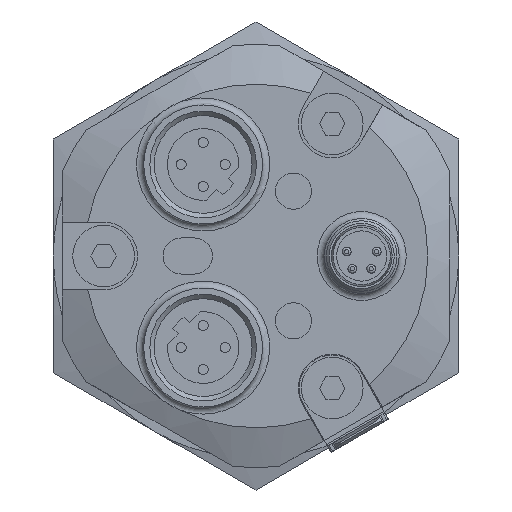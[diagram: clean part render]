
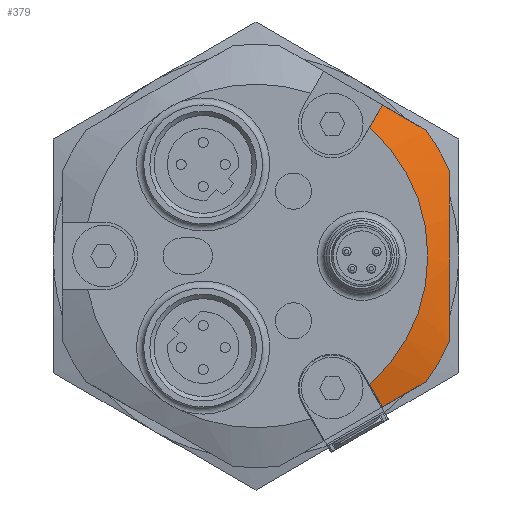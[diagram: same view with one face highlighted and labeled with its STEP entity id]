
A CAD part, left-side view. The second image highlights one B-rep face of the part: STEP entity #379.
In plain terms, the highlighted conical face has half-angle 70 degrees and reference radius 19.5 mm.
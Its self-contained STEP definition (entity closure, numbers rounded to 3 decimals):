
#379 = ADVANCED_FACE( '', ( #898 ), #899, .T. );
#898 = FACE_OUTER_BOUND( '', #1450, .T. );
#899 = CONICAL_SURFACE( '', #1451, 19.5, 1.222 );
#1450 = EDGE_LOOP( '', ( #3173, #3174, #3175, #3176, #3177, #3178, #3179, #3180 ) );
#1451 = AXIS2_PLACEMENT_3D( '', #3181, #3182, #3183 );
#3173 = ORIENTED_EDGE( '', *, *, #3269, .F. );
#3174 = ORIENTED_EDGE( '', *, *, #3574, .F. );
#3175 = ORIENTED_EDGE( '', *, *, #3724, .F. );
#3176 = ORIENTED_EDGE( '', *, *, #3577, .F. );
#3177 = ORIENTED_EDGE( '', *, *, #3581, .F. );
#3178 = ORIENTED_EDGE( '', *, *, #3585, .F. );
#3179 = ORIENTED_EDGE( '', *, *, #3289, .F. );
#3180 = ORIENTED_EDGE( '', *, *, #3314, .T. );
#3181 = CARTESIAN_POINT( '', ( -68., 0., 0. ) );
#3182 = DIRECTION( '', ( 1., 0., 0. ) );
#3183 = DIRECTION( '', ( 0., 0., -1. ) );
#3269 = EDGE_CURVE( '', #3743, #3744, #3745, .T. );
#3289 = EDGE_CURVE( '', #3780, #3781, #3782, .T. );
#3314 = EDGE_CURVE( '', #3780, #3744, #3826, .T. );
#3574 = EDGE_CURVE( '', #4279, #3743, #4281, .T. );
#3577 = EDGE_CURVE( '', #4283, #4286, #4287, .F. );
#3581 = EDGE_CURVE( '', #4291, #4283, #4294, .T. );
#3585 = EDGE_CURVE( '', #3781, #4291, #4300, .T. );
#3724 = EDGE_CURVE( '', #4286, #4279, #4518, .T. );
#3743 = VERTEX_POINT( '', #4548 );
#3744 = VERTEX_POINT( '', #4549 );
#3745 = B_SPLINE_CURVE_WITH_KNOTS( '', 3, ( #4550, #4551, #4552, #4553 ), .UNSPECIFIED., .F., .F., ( 4, 4 ), ( 0.001, 0.004 ), .UNSPECIFIED. );
#3780 = VERTEX_POINT( '', #4604 );
#3781 = VERTEX_POINT( '', #4605 );
#3782 = B_SPLINE_CURVE_WITH_KNOTS( '', 3, ( #4606, #4607, #4608, #4609 ), .UNSPECIFIED., .F., .F., ( 4, 4 ), ( 0., 0.003 ), .UNSPECIFIED. );
#3826 = CIRCLE( '', #4693, 19.5 );
#4279 = VERTEX_POINT( '', #5321 );
#4281 = B_SPLINE_CURVE_WITH_KNOTS( '', 3, ( #5324, #5325, #5326, #5327 ), .UNSPECIFIED., .F., .F., ( 4, 4 ), ( 0., 0.006 ), .UNSPECIFIED. );
#4283 = VERTEX_POINT( '', #5330 );
#4286 = VERTEX_POINT( '', #5334 );
#4287 = B_SPLINE_CURVE_WITH_KNOTS( '', 3, ( #5335, #5336, #5337, #5338, #5339, #5340, #5341, #5342, #5343, #5344 ), .UNSPECIFIED., .F., .F., ( 4, 2, 2, 2, 4 ), ( 0.022, 0.026, 0.031, 0.036, 0.041 ), .UNSPECIFIED. );
#4291 = VERTEX_POINT( '', #5350 );
#4294 = CIRCLE( '', #5354, 24. );
#4300 = B_SPLINE_CURVE_WITH_KNOTS( '', 3, ( #5364, #5365, #5366, #5367 ), .UNSPECIFIED., .F., .F., ( 4, 4 ), ( 0.013, 0.019 ), .UNSPECIFIED. );
#4518 = CIRCLE( '', #5747, 24. );
#4548 = CARTESIAN_POINT( '', ( -66.968, -14.334, -17.128 ) );
#4549 = CARTESIAN_POINT( '', ( -68., -12.892, -14.63 ) );
#4550 = CARTESIAN_POINT( '', ( -66.968, -14.334, -17.128 ) );
#4551 = CARTESIAN_POINT( '', ( -67.313, -13.854, -16.295 ) );
#4552 = CARTESIAN_POINT( '', ( -67.657, -13.373, -15.463 ) );
#4553 = CARTESIAN_POINT( '', ( -68., -12.892, -14.63 ) );
#4604 = CARTESIAN_POINT( '', ( -68., -12.892, 14.63 ) );
#4605 = CARTESIAN_POINT( '', ( -66.968, -14.334, 17.128 ) );
#4606 = CARTESIAN_POINT( '', ( -68., -12.892, 14.63 ) );
#4607 = CARTESIAN_POINT( '', ( -67.657, -13.373, 15.463 ) );
#4608 = CARTESIAN_POINT( '', ( -67.313, -13.854, 16.295 ) );
#4609 = CARTESIAN_POINT( '', ( -66.968, -14.334, 17.128 ) );
#4693 = AXIS2_PLACEMENT_3D( '', #5854, #5855, #5856 );
#5321 = CARTESIAN_POINT( '', ( -66.362, -19.307, -14.257 ) );
#5324 = CARTESIAN_POINT( '', ( -66.362, -19.307, -14.257 ) );
#5325 = CARTESIAN_POINT( '', ( -66.641, -17.649, -15.214 ) );
#5326 = CARTESIAN_POINT( '', ( -66.848, -15.992, -16.171 ) );
#5327 = CARTESIAN_POINT( '', ( -66.968, -14.334, -17.128 ) );
#5330 = CARTESIAN_POINT( '', ( -66.362, -22., 9.592 ) );
#5334 = CARTESIAN_POINT( '', ( -66.362, -22., -9.592 ) );
#5335 = CARTESIAN_POINT( '', ( -66.362, -22., -9.592 ) );
#5336 = CARTESIAN_POINT( '', ( -66.594, -22., -7.995 ) );
#5337 = CARTESIAN_POINT( '', ( -66.78, -22., -6.382 ) );
#5338 = CARTESIAN_POINT( '', ( -67.028, -22., -3.171 ) );
#5339 = CARTESIAN_POINT( '', ( -67.091, -22., -1.568 ) );
#5340 = CARTESIAN_POINT( '', ( -67.089, -22., 1.631 ) );
#5341 = CARTESIAN_POINT( '', ( -67.024, -22., 3.227 ) );
#5342 = CARTESIAN_POINT( '', ( -66.776, -22., 6.414 ) );
#5343 = CARTESIAN_POINT( '', ( -66.593, -22., 8.004 ) );
#5344 = CARTESIAN_POINT( '', ( -66.362, -22., 9.592 ) );
#5350 = CARTESIAN_POINT( '', ( -66.362, -19.307, 14.257 ) );
#5354 = AXIS2_PLACEMENT_3D( '', #6319, #6320, #6321 );
#5364 = CARTESIAN_POINT( '', ( -66.968, -14.334, 17.128 ) );
#5365 = CARTESIAN_POINT( '', ( -66.848, -15.992, 16.171 ) );
#5366 = CARTESIAN_POINT( '', ( -66.641, -17.649, 15.214 ) );
#5367 = CARTESIAN_POINT( '', ( -66.362, -19.307, 14.257 ) );
#5747 = AXIS2_PLACEMENT_3D( '', #6541, #6542, #6543 );
#5854 = CARTESIAN_POINT( '', ( -68., 0., 0. ) );
#5855 = DIRECTION( '', ( 1., 0., 0. ) );
#5856 = DIRECTION( '', ( 0., 0., -1. ) );
#6319 = CARTESIAN_POINT( '', ( -66.362, 0., 0. ) );
#6320 = DIRECTION( '', ( 1., 0., 0. ) );
#6321 = DIRECTION( '', ( 0., 0., -1. ) );
#6541 = CARTESIAN_POINT( '', ( -66.362, 0., 0. ) );
#6542 = DIRECTION( '', ( 1., 0., 0. ) );
#6543 = DIRECTION( '', ( 0., 0., -1. ) );
